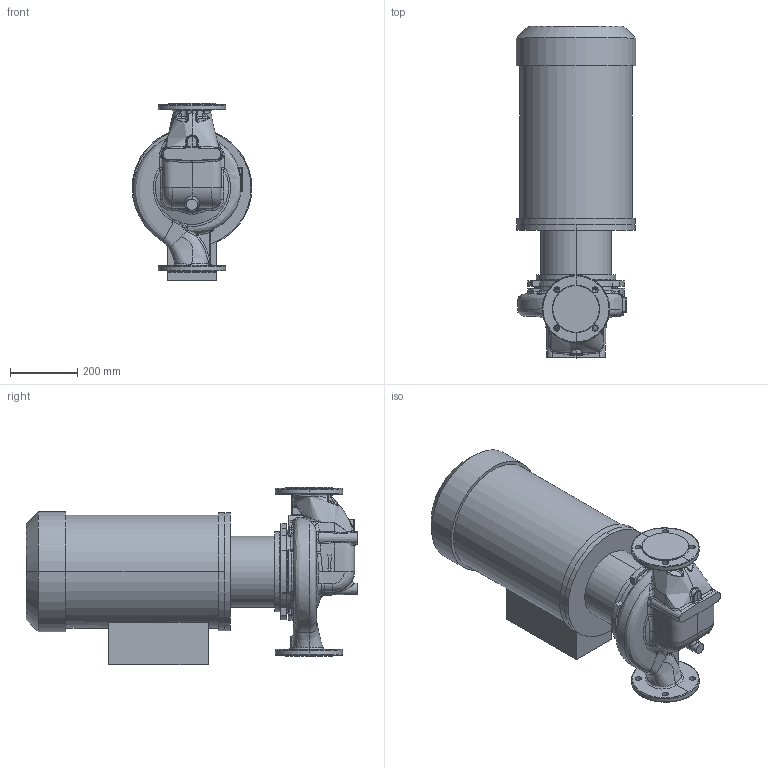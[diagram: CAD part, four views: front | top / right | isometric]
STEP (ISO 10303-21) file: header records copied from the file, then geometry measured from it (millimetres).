
FILE_DESCRIPTION (( 'STEP AP214' ), '1' );
FILE_NAME ('KRL 80-210-2-22.STEP', '2026-04-06T11:29:38', ( '' ), ( '' ), 'SwSTEP 2.0', 'SolidWorks 2016', '' );
FILE_SCHEMA (( 'AUTOMOTIVE_DESIGN' ));
Length unit declared in the file: millimetre
Products named in the file (1): KRL 80-210-2-22
Bounding box: 355 x 984.3 x 525 mm (x, y, z)
Volume: 79203787.2 mm3; surface area: 1917598 mm2
Topology: 4 solids, 4 shells, 669 faces, 1656 edges, 986 vertices
Faces by surface type: bspline 324, plane 126, cylinder 120, cone 50, torus 28, sphere 21
Entity records: 69302 total; most frequent: CARTESIAN_POINT 49060, ORIENTED_EDGE 3256, DIRECTION 1900, EDGE_CURVE 1628, VERTEX_POINT 986, AXIS2_PLACEMENT_3D 811, B_SPLINE_CURVE_WITH_KNOTS 757, EDGE_LOOP 704
